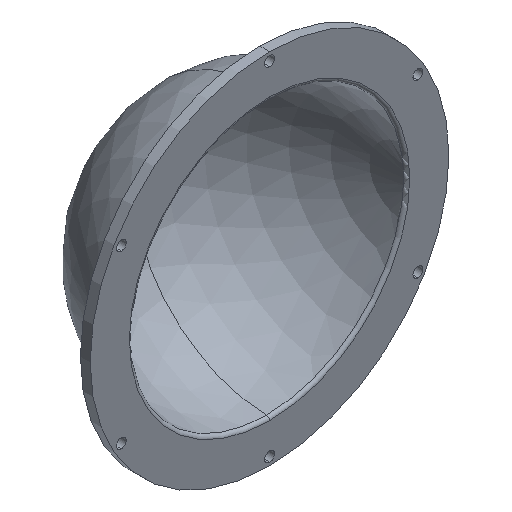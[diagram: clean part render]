
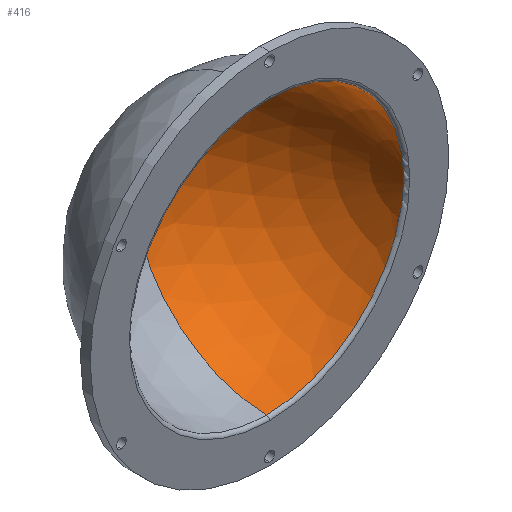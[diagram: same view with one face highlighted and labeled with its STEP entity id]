
A CAD part, isometric view. The second image highlights one B-rep face of the part: STEP entity #416.
In plain terms, the highlighted spherical face has radius 42 mm.
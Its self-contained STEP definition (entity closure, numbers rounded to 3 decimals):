
#3 = CARTESIAN_POINT ( 'NONE',  ( 0., 0., 0. ) ) ;
#12 = DIRECTION ( 'NONE',  ( 0., 0., 1. ) ) ;
#40 = CIRCLE ( 'NONE', #633, 41.989 ) ;
#64 = EDGE_LOOP ( 'NONE', ( #165, #434, #169 ) ) ;
#85 = AXIS2_PLACEMENT_3D ( 'NONE', #441, #743, #608 ) ;
#165 = ORIENTED_EDGE ( 'NONE', *, *, #449, .F. ) ;
#169 = ORIENTED_EDGE ( 'NONE', *, *, #308, .T. ) ;
#236 = CARTESIAN_POINT ( 'NONE',  ( 0., 0.977, -41.989 ) ) ;
#247 = DIRECTION ( 'NONE',  ( -1., 0., 0. ) ) ;
#251 = DIRECTION ( 'NONE',  ( -1., 0., 0. ) ) ;
#252 = DIRECTION ( 'NONE',  ( 0., 0., -1. ) ) ;
#291 = AXIS2_PLACEMENT_3D ( 'NONE', #694, #251, #12 ) ;
#294 = VERTEX_POINT ( 'NONE', #614 ) ;
#308 = EDGE_CURVE ( 'NONE', #418, #294, #40, .T. ) ;
#314 = CIRCLE ( 'NONE', #85, 42. ) ;
#322 = CIRCLE ( 'NONE', #291, 42. ) ;
#377 = DIRECTION ( 'NONE',  ( 0., -1., 0. ) ) ;
#416 = ADVANCED_FACE ( 'NONE', ( #670 ), #556, .F. ) ;
#418 = VERTEX_POINT ( 'NONE', #236 ) ;
#434 = ORIENTED_EDGE ( 'NONE', *, *, #596, .T. ) ;
#441 = CARTESIAN_POINT ( 'NONE',  ( 0., 0., 0. ) ) ;
#449 = EDGE_CURVE ( 'NONE', #602, #294, #314, .T. ) ;
#484 = DIRECTION ( 'NONE',  ( 0., 0., 1. ) ) ;
#506 = CARTESIAN_POINT ( 'NONE',  ( 0., 42., 0. ) ) ;
#556 = SPHERICAL_SURFACE ( 'NONE', #594, 42. ) ;
#594 = AXIS2_PLACEMENT_3D ( 'NONE', #3, #247, #484 ) ;
#596 = EDGE_CURVE ( 'NONE', #602, #418, #322, .T. ) ;
#602 = VERTEX_POINT ( 'NONE', #506 ) ;
#608 = DIRECTION ( 'NONE',  ( 0., 0., -1. ) ) ;
#614 = CARTESIAN_POINT ( 'NONE',  ( 0., 0.977, 41.989 ) ) ;
#629 = CARTESIAN_POINT ( 'NONE',  ( 0., 0.977, 0. ) ) ;
#633 = AXIS2_PLACEMENT_3D ( 'NONE', #629, #377, #252 ) ;
#670 = FACE_OUTER_BOUND ( 'NONE', #64, .T. ) ;
#694 = CARTESIAN_POINT ( 'NONE',  ( 0., 0., 0. ) ) ;
#743 = DIRECTION ( 'NONE',  ( 1., 0., 0. ) ) ;
